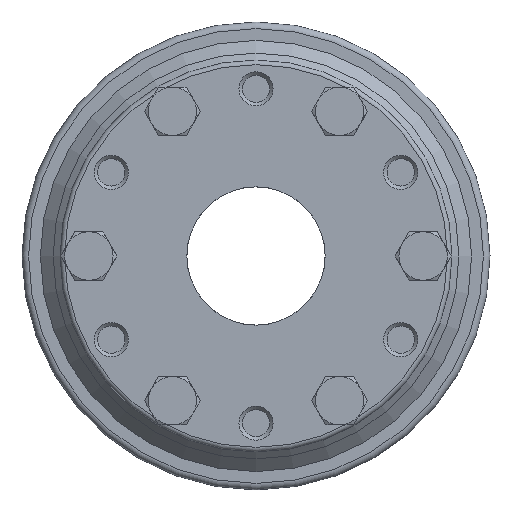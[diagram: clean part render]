
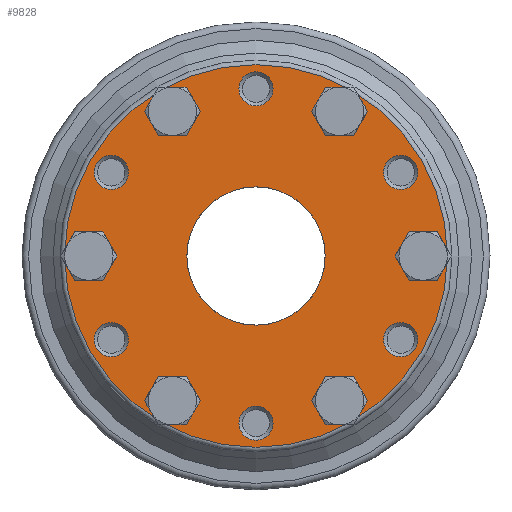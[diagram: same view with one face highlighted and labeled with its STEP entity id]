
A CAD part, left-side view. The second image highlights one B-rep face of the part: STEP entity #9828.
In plain terms, the highlighted planar face has unit normal (-1, 0, 0).
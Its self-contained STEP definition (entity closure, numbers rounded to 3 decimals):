
#955=PLANE('',#10506);
#1702=ORIENTED_EDGE('',*,*,#3039,.T.);
#1703=ORIENTED_EDGE('',*,*,#3038,.T.);
#1704=ORIENTED_EDGE('',*,*,#3037,.T.);
#1705=ORIENTED_EDGE('',*,*,#3053,.F.);
#1706=ORIENTED_EDGE('',*,*,#3036,.T.);
#1707=ORIENTED_EDGE('',*,*,#3035,.F.);
#1708=ORIENTED_EDGE('',*,*,#3033,.F.);
#1709=ORIENTED_EDGE('',*,*,#3031,.F.);
#1710=ORIENTED_EDGE('',*,*,#3029,.F.);
#1711=ORIENTED_EDGE('',*,*,#3027,.F.);
#1712=ORIENTED_EDGE('',*,*,#3025,.F.);
#1713=ORIENTED_EDGE('',*,*,#3023,.T.);
#1714=ORIENTED_EDGE('',*,*,#3022,.T.);
#1715=ORIENTED_EDGE('',*,*,#3021,.T.);
#3021=EDGE_CURVE('',#3765,#3765,#4313,.T.);
#3022=EDGE_CURVE('',#3766,#3766,#4314,.T.);
#3023=EDGE_CURVE('',#3767,#3767,#4315,.T.);
#3025=EDGE_CURVE('',#3769,#3769,#4317,.T.);
#3027=EDGE_CURVE('',#3771,#3771,#4319,.T.);
#3029=EDGE_CURVE('',#3773,#3773,#4321,.T.);
#3031=EDGE_CURVE('',#3775,#3775,#4323,.T.);
#3033=EDGE_CURVE('',#3777,#3777,#4325,.T.);
#3035=EDGE_CURVE('',#3779,#3779,#4327,.T.);
#3036=EDGE_CURVE('',#3780,#3780,#4328,.T.);
#3037=EDGE_CURVE('',#3781,#3781,#4329,.T.);
#3038=EDGE_CURVE('',#3782,#3782,#4330,.T.);
#3039=EDGE_CURVE('',#3783,#3783,#4331,.T.);
#3053=EDGE_CURVE('',#3797,#3797,#4345,.T.);
#3765=VERTEX_POINT('',#14085);
#3766=VERTEX_POINT('',#14088);
#3767=VERTEX_POINT('',#14091);
#3769=VERTEX_POINT('',#14096);
#3771=VERTEX_POINT('',#14101);
#3773=VERTEX_POINT('',#14106);
#3775=VERTEX_POINT('',#14111);
#3777=VERTEX_POINT('',#14116);
#3779=VERTEX_POINT('',#14121);
#3780=VERTEX_POINT('',#14124);
#3781=VERTEX_POINT('',#14127);
#3782=VERTEX_POINT('',#14130);
#3783=VERTEX_POINT('',#14133);
#3797=VERTEX_POINT('',#14175);
#4313=CIRCLE('',#10449,9.585);
#4314=CIRCLE('',#10451,9.585);
#4315=CIRCLE('',#10453,9.585);
#4317=CIRCLE('',#10456,7.418);
#4319=CIRCLE('',#10459,7.418);
#4321=CIRCLE('',#10462,7.418);
#4323=CIRCLE('',#10465,7.418);
#4325=CIRCLE('',#10468,7.418);
#4327=CIRCLE('',#10471,7.418);
#4328=CIRCLE('',#10473,83.);
#4329=CIRCLE('',#10475,9.585);
#4330=CIRCLE('',#10477,9.585);
#4331=CIRCLE('',#10479,9.585);
#4345=CIRCLE('',#10507,30.);
#4908=EDGE_LOOP('',(#1702));
#4909=EDGE_LOOP('',(#1703));
#4910=EDGE_LOOP('',(#1704));
#4911=EDGE_LOOP('',(#1705));
#4912=EDGE_LOOP('',(#1706));
#4913=EDGE_LOOP('',(#1707));
#4914=EDGE_LOOP('',(#1708));
#4915=EDGE_LOOP('',(#1709));
#4916=EDGE_LOOP('',(#1710));
#4917=EDGE_LOOP('',(#1711));
#4918=EDGE_LOOP('',(#1712));
#4919=EDGE_LOOP('',(#1713));
#4920=EDGE_LOOP('',(#1714));
#4921=EDGE_LOOP('',(#1715));
#5708=FACE_BOUND('',#4908,.T.);
#5709=FACE_BOUND('',#4909,.T.);
#5710=FACE_BOUND('',#4910,.T.);
#5711=FACE_BOUND('',#4911,.T.);
#5712=FACE_BOUND('',#4912,.T.);
#5713=FACE_BOUND('',#4913,.T.);
#5714=FACE_BOUND('',#4914,.T.);
#5715=FACE_BOUND('',#4915,.T.);
#5716=FACE_BOUND('',#4916,.T.);
#5717=FACE_BOUND('',#4917,.T.);
#5718=FACE_BOUND('',#4918,.T.);
#5719=FACE_BOUND('',#4919,.T.);
#5720=FACE_BOUND('',#4920,.T.);
#5721=FACE_BOUND('',#4921,.T.);
#9828=ADVANCED_FACE('',(#5708,#5709,#5710,#5711,#5712,#5713,#5714,#5715,
#5716,#5717,#5718,#5719,#5720,#5721),#955,.T.);
#10449=AXIS2_PLACEMENT_3D('',#14084,#11754,#11755);
#10451=AXIS2_PLACEMENT_3D('',#14087,#11758,#11759);
#10453=AXIS2_PLACEMENT_3D('',#14090,#11762,#11763);
#10456=AXIS2_PLACEMENT_3D('',#14095,#11768,#11769);
#10459=AXIS2_PLACEMENT_3D('',#14100,#11774,#11775);
#10462=AXIS2_PLACEMENT_3D('',#14105,#11780,#11781);
#10465=AXIS2_PLACEMENT_3D('',#14110,#11786,#11787);
#10468=AXIS2_PLACEMENT_3D('',#14115,#11792,#11793);
#10471=AXIS2_PLACEMENT_3D('',#14120,#11798,#11799);
#10473=AXIS2_PLACEMENT_3D('',#14123,#11802,#11803);
#10475=AXIS2_PLACEMENT_3D('',#14126,#11806,#11807);
#10477=AXIS2_PLACEMENT_3D('',#14129,#11810,#11811);
#10479=AXIS2_PLACEMENT_3D('',#14132,#11814,#11815);
#10506=AXIS2_PLACEMENT_3D('',#14173,#11868,#11869);
#10507=AXIS2_PLACEMENT_3D('',#14174,#11870,#11871);
#11754=DIRECTION('',(1.,0.,0.));
#11755=DIRECTION('',(0.,0.5,-0.866));
#11758=DIRECTION('',(1.,0.,0.));
#11759=DIRECTION('',(0.,0.5,0.866));
#11762=DIRECTION('',(1.,0.,0.));
#11763=DIRECTION('',(0.,-1.,0.));
#11768=DIRECTION('',(-1.,0.,0.));
#11769=DIRECTION('',(0.,0.5,-0.866));
#11774=DIRECTION('',(-1.,0.,0.));
#11775=DIRECTION('',(0.,0.5,-0.866));
#11780=DIRECTION('',(-1.,0.,0.));
#11781=DIRECTION('',(0.,0.5,-0.866));
#11786=DIRECTION('',(-1.,0.,0.));
#11787=DIRECTION('',(0.,0.5,-0.866));
#11792=DIRECTION('',(-1.,0.,0.));
#11793=DIRECTION('',(0.,0.5,-0.866));
#11798=DIRECTION('',(-1.,0.,0.));
#11799=DIRECTION('',(0.,0.5,-0.866));
#11802=DIRECTION('',(-1.,0.,0.));
#11803=DIRECTION('',(0.,0.5,-0.866));
#11806=DIRECTION('',(1.,0.,0.));
#11807=DIRECTION('',(0.,-0.5,-0.866));
#11810=DIRECTION('',(1.,0.,0.));
#11811=DIRECTION('',(0.,-0.5,0.866));
#11814=DIRECTION('',(1.,0.,0.));
#11815=DIRECTION('',(0.,1.,0.));
#11868=DIRECTION('',(-1.,0.,0.));
#11869=DIRECTION('',(0.,0.5,-0.866));
#11870=DIRECTION('',(-1.,0.,0.));
#11871=DIRECTION('',(0.,0.5,-0.866));
#14084=CARTESIAN_POINT('',(-80.79,36.25,62.787));
#14085=CARTESIAN_POINT('',(-80.79,41.043,54.486));
#14087=CARTESIAN_POINT('',(-80.79,-72.5,0.));
#14088=CARTESIAN_POINT('',(-80.79,-67.708,8.301));
#14090=CARTESIAN_POINT('',(-80.79,36.25,-62.787));
#14091=CARTESIAN_POINT('',(-80.79,26.665,-62.787));
#14095=CARTESIAN_POINT('',(-80.79,62.787,36.25));
#14096=CARTESIAN_POINT('',(-80.79,66.496,29.826));
#14100=CARTESIAN_POINT('',(-80.79,0.,72.5));
#14101=CARTESIAN_POINT('',(-80.79,3.709,66.076));
#14105=CARTESIAN_POINT('',(-80.79,-62.787,36.25));
#14106=CARTESIAN_POINT('',(-80.79,-59.078,29.826));
#14110=CARTESIAN_POINT('',(-80.79,-62.787,-36.25));
#14111=CARTESIAN_POINT('',(-80.79,-59.078,-42.674));
#14115=CARTESIAN_POINT('',(-80.79,0.,-72.5));
#14116=CARTESIAN_POINT('',(-80.79,3.709,-78.924));
#14120=CARTESIAN_POINT('',(-80.79,62.787,-36.25));
#14121=CARTESIAN_POINT('',(-80.79,66.496,-42.674));
#14123=CARTESIAN_POINT('',(-80.79,0.,0.));
#14124=CARTESIAN_POINT('',(-80.79,41.5,-71.88));
#14126=CARTESIAN_POINT('',(-80.79,72.5,0.));
#14127=CARTESIAN_POINT('',(-80.79,67.708,-8.301));
#14129=CARTESIAN_POINT('',(-80.79,-36.25,-62.787));
#14130=CARTESIAN_POINT('',(-80.79,-41.043,-54.486));
#14132=CARTESIAN_POINT('',(-80.79,-36.25,62.787));
#14133=CARTESIAN_POINT('',(-80.79,-26.665,62.787));
#14173=CARTESIAN_POINT('',(-80.79,15.,-25.981));
#14174=CARTESIAN_POINT('',(-80.79,0.,0.));
#14175=CARTESIAN_POINT('',(-80.79,15.,-25.981));
